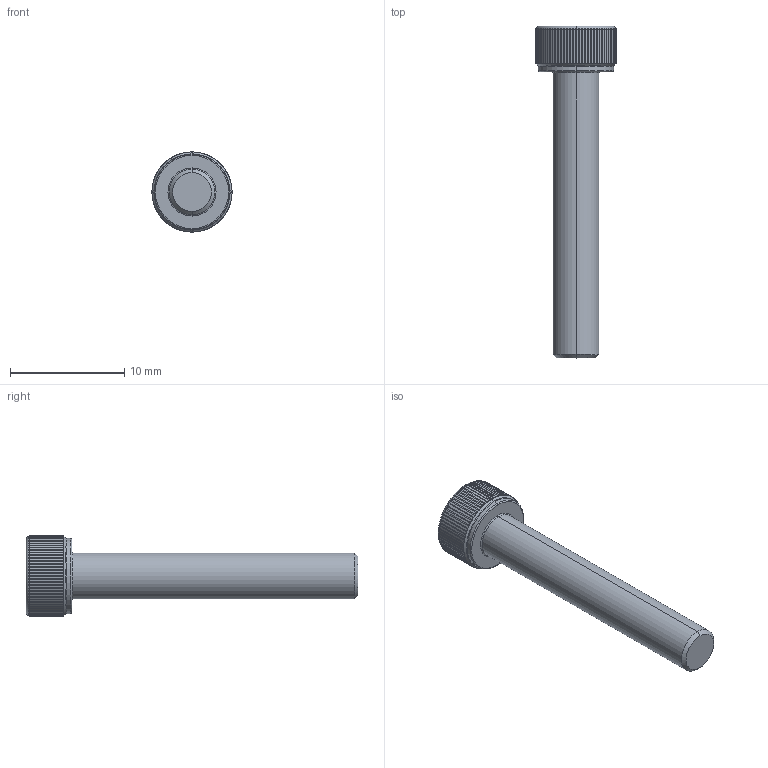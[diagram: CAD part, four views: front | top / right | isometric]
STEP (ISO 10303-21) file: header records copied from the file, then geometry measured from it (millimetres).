
FILE_DESCRIPTION (( 'STEP AP203' ), '1' );
FILE_NAME ('LGDT-304-M4x25.STEP', '2026-08-10T01:39:21', ( '' ), ( '' ), 'SwSTEP 2.0', 'SolidWorks 2020', '' );
FILE_SCHEMA (( 'CONFIG_CONTROL_DESIGN' ));
Length unit declared in the file: millimetre
Products named in the file (1): LGDT-304-M4x25
Bounding box: 7 x 29 x 7 mm (x, y, z)
Volume: 444.9 mm3; surface area: 495.2 mm2
Topology: 1 solids, 1 shells, 204 faces, 576 edges, 376 vertices
Faces by surface type: cylinder 175, cone 11, plane 10, torus 8
Entity records: 10019 total; most frequent: CARTESIAN_POINT 4860, ORIENTED_EDGE 1152, DIRECTION 988, EDGE_CURVE 576, AXIS2_PLACEMENT_3D 398, VERTEX_POINT 376, EDGE_LOOP 206, ADVANCED_FACE 204
